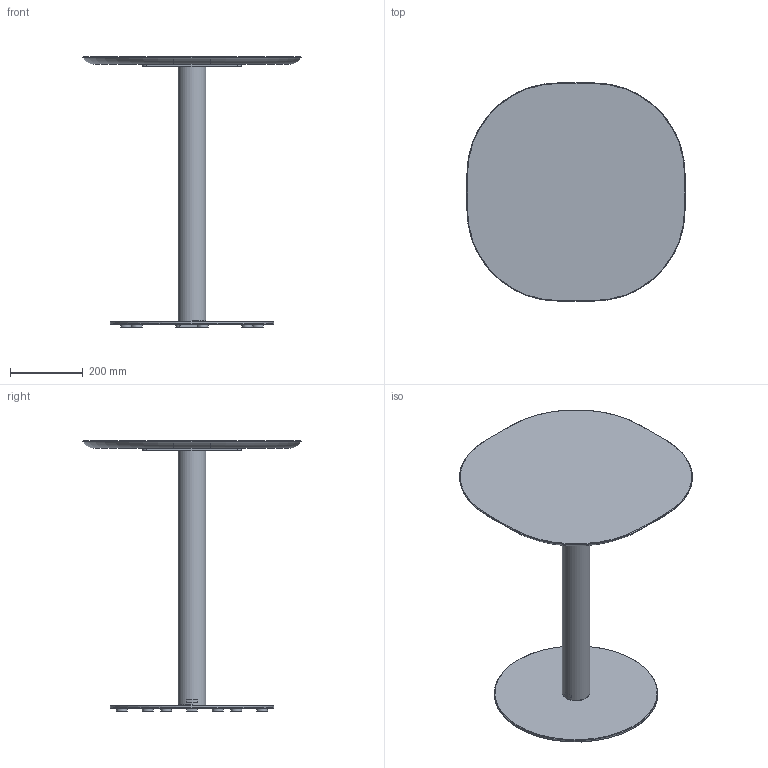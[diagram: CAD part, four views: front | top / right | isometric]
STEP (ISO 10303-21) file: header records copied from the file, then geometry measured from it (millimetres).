
FILE_DESCRIPTION( ('This file contains a STEP AP42 implementation' ,'as created by ZW3D STEP Interface translator.') ,'2;1' );
FILE_NAME( 'Henri - B_Rond - F2 - M3 - 600 x 600 x 750.stp' ,'24 912.152819', (''), ('ZWCAD Software Co.'), 'Version 1.0', 'ZW3D to STEP translator', '' );
FILE_SCHEMA(('AUTOMOTIVE_DESIGN { 1 0 10303 214 1 1 1 1 }'));
Length unit declared in the file: millimetre
Products named in the file (14): 0; PIED BISTROT PARAMETRIQUE_; COLONNE ACIER Ø76 V.02_; TUB-D076-02_; PLA-R76B-01_; SOCLE ACIER C Ø450 V.02_; SCL-D450-02_; PLA-R30A-01_; PLA-R30A-01; CROIX ACIER 370 V.02_; CRX-X370-02_; WUERTH 0276063020 Euro-screw 6.3x2 Verzinkt_; PLATEAU BISTROT PARAMETRIQUE_; insert_m6_13_
Assembly tree (24 placements, depth 3):
  0
  PIED BISTROT PARAMETRIQUE_
    COLONNE ACIER Ø76 V.02_
      TUB-D076-02_
      PLA-R76B-01_  x2
    SOCLE ACIER C Ø450 V.02_
      SCL-D450-02_
      PLA-R30A-01_
      PLA-R30A-01  x5
    CROIX ACIER 370 V.02_
      CRX-X370-02_
    WUERTH 0276063020 Euro-screw 6.3x2 Verzinkt_
    PLATEAU BISTROT PARAMETRIQUE_
      insert_m6_13_  x8
Bounding box: 600 x 600 x 744 mm (x, y, z)
Volume: 8049266.4 mm3; surface area: 1482727.9 mm2
Topology: 21 solids, 21 shells, 524 faces, 1273 edges, 802 vertices
Faces by surface type: plane 247, bspline 124, cylinder 103, cone 45, torus 5
Full cylindrical faces by diameter (mm): 4.88 x1, 6 x8, 6.3 x1, 8 x47, 12 x2, 14 x2, 30 x6, 72 x1, 76 x1, 450 x1
Entity records: 11785 total; most frequent: CARTESIAN_POINT 3376, ORIENTED_EDGE 1526, DIRECTION 1415, EDGE_CURVE 763, VERTEX_POINT 490, AXIS2_PLACEMENT_3D 475, VECTOR 465, LINE 465
